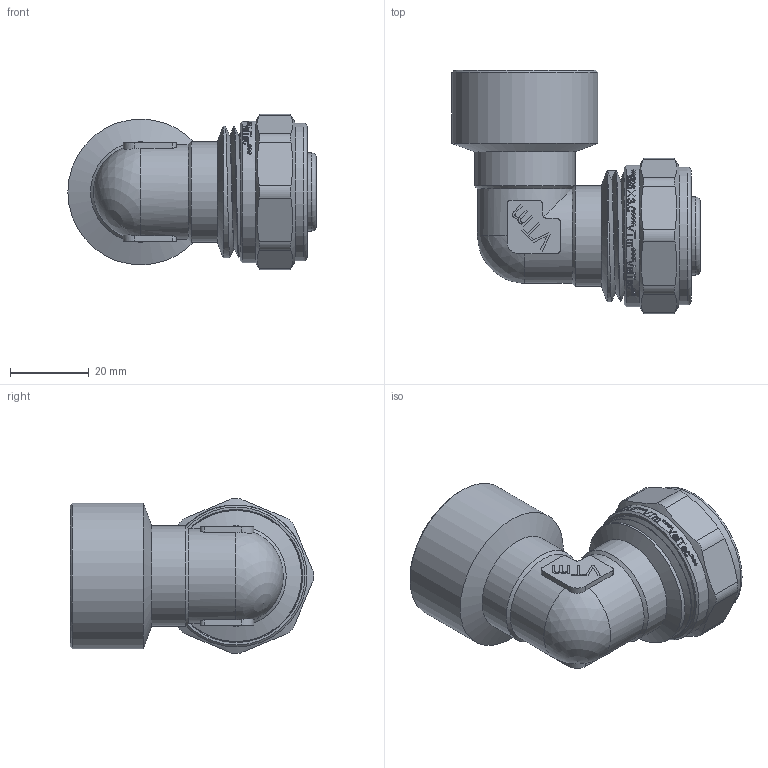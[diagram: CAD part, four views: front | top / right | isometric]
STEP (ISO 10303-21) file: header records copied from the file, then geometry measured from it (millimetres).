
FILE_DESCRIPTION(/* description */ (''),/* implementation_level */ '2;1');
FILE_NAME(/* name */ 'F:\Артём\00000\Работа удаленка\Обжимные фитинги\VTm.352.N.002606.stp',/* time_stamp */ '2020-08-06T13:21:44+03:00',/* author */ ('almis'),/* organization */ (''),/* preprocessor_version */ 'ST-DEVELOPER v18',/* originating_system */ 'Autodesk Inventor 2020',/* authorisation */ '');
FILE_SCHEMA (('AUTOMOTIVE_DESIGN { 1 0 10303 214 3 1 1 }'));
Length unit declared in the file: millimetre
Products named in the file (1): VTm.301.N.001605
Bounding box: 63 x 61.69 x 39.39 mm (x, y, z)
Volume: 30285.5 mm3; surface area: 24618.1 mm2
Topology: 1 solids, 1 shells, 791 faces, 2233 edges, 1501 vertices
Faces by surface type: bspline 397, plane 235, cylinder 112, torus 24, cone 22, sphere 1
Full cylindrical faces by diameter (mm): 15 x1, 17.4 x2, 19 x1, 19.8 x5, 24 x2, 24.516 x4, 25.435 x5, 25.5 x2, 26.2 x1, 26.7 x1, 28.5 x1, 28.7 x2, 30.3 x8, 30.5 x1, 33.3 x3, 33.9 x8, 35 x1, 36 x1, 37 x1
Entity records: 34385 total; most frequent: CARTESIAN_POINT 16478, ORIENTED_EDGE 4462, DIRECTION 2442, EDGE_CURVE 2231, VERTEX_POINT 1501, LINE 998, VECTOR 998, B_SPLINE_CURVE_WITH_KNOTS 890
